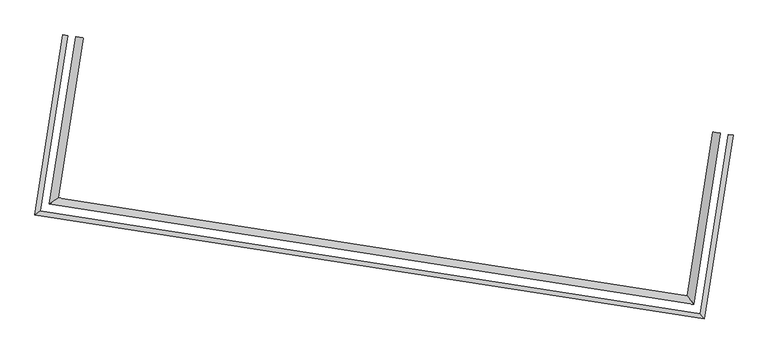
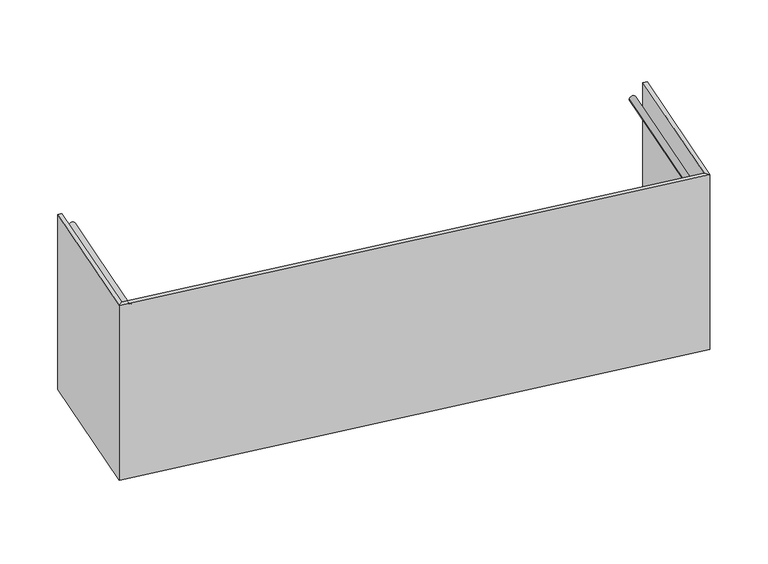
"""IFC4 building model written with IfcOpenShell, lengths in millimetres: railing geometry, Panel de vidrio - balcón."""

from ifc_helpers import new_model, si_unit, frame, origin, place, context, project, spatial, circle_curve, ellipse_curve, faceted_brep, source, transform, mapped, element, save
from ifc_brep_helpers import plane_surface, cylinder_surface, advanced_brep


def railing_e219cee7(model_context):
    return source(origin(), model_context, "Body", "SolidModel", [
        faceted_brep([(-37353.4144704, -61424.1774371, 4145.385397), (-37353.4144704, -61424.1774371, 2945.385397), (-37378.1162031, -61420.3271901, 2945.385397), (-37378.1162031, -61420.3271901, 4145.385397), (-37524.7191931, -62360.8766891, 4145.385397), (-37503.8677074, -62389.4286687, 4145.385397), (-37524.7191931, -62360.8766891, 2945.385397), (-37503.8677074, -62389.4286687, 2945.385397), (-40988.3758738, -61820.998231, 4145.385397), (-41016.9278535, -61841.8497168, 4145.385397), (-40988.3758738, -61820.998231, 2945.385397), (-41016.9278535, -61841.8497168, 2945.385397), (-40869.554814, -60896.3598705, 4145.385397), (-40844.8530813, -60900.2101175, 4145.385397), (-40844.8530813, -60900.2101175, 2945.385397), (-40869.554814, -60896.3598705, 2945.385397)], [[[0, 1, 2, 3]], [[0, 3, 4, 5]], [[3, 2, 6, 4]], [[2, 1, 7, 6]], [[1, 0, 5, 7]], [[5, 4, 8, 9]], [[4, 6, 10, 8]], [[6, 7, 11, 10]], [[7, 5, 9, 11]], [[12, 13, 14, 15]], [[9, 8, 13, 12]], [[8, 10, 14, 13]], [[10, 11, 15, 14]], [[11, 9, 12, 15]]]),
        advanced_brep(
        [(-37459.0454073, -61407.7127946, 4050.0), (-37419.522635, -61413.8731898, 4050.0), (-37559.6716247, -62313.0162571, 4050.0), (-37593.0340019, -62267.3330898, 4050.0), (-40940.5154416, -61786.0457992, 4050.0), (-40894.8322741, -61752.683422, 4050.0), (-40763.9238771, -60912.8245129, 4050.0), (-40803.4466494, -60906.6641178, 4050.0)],
        [
            (0, 1, circle_curve(frame((-37439.2840211, -61410.7929922, 4050.0), z_axis=(0.15400987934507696, 0.9880693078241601, 0.0), x_axis=(0.9880693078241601, -0.15400987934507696, 0.0)), 20.0)),
            (1, 0, circle_curve(frame((-37439.2840211, -61410.7929922, 4050.0), z_axis=(0.15400987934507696, 0.9880693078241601, 0.0), x_axis=(0.9880693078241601, -0.15400987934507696, 0.0)), 20.0)),
            (1, 2),
            (2, 3, ellipse_curve(frame((-37576.3528133, -62290.1746734, 4050.0), z_axis=(0.8075719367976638, 0.5897690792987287, 0.0), x_axis=(-0.5897690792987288, 0.8075719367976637, 0.0)), 28.2842712, 20.0)),
            (3, 0),
            (3, 2, ellipse_curve(frame((-37576.3528133, -62290.1746734, 4050.0), z_axis=(0.8075719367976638, 0.5897690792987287, 0.0), x_axis=(-0.5897690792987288, 0.8075719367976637, 0.0)), 28.2842712, 20.0)),
            (2, 4),
            (4, 5, ellipse_curve(frame((-40917.6738579, -61769.3646106, 4050.0), z_axis=(0.5897690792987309, -0.8075719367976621, 0.0), x_axis=(0.8075719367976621, 0.5897690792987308, 0.0)), 28.2842713, 20.0)),
            (5, 3),
            (5, 4, ellipse_curve(frame((-40917.6738579, -61769.3646106, 4050.0), z_axis=(0.5897690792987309, -0.8075719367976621, 0.0), x_axis=(0.8075719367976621, 0.5897690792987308, 0.0)), 28.2842713, 20.0)),
            (6, 7, circle_curve(frame((-40783.6852633, -60909.7443153, 4050.0), z_axis=(0.15400987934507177, 0.9880693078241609, 0.0), x_axis=(-0.9880693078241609, 0.15400987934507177, 0.0)), 20.0)),
            (7, 6, circle_curve(frame((-40783.6852633, -60909.7443153, 4050.0), z_axis=(0.15400987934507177, 0.9880693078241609, 0.0), x_axis=(-0.9880693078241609, 0.15400987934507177, 0.0)), 20.0)),
            (4, 7),
            (6, 5),
        ],
        [
            plane_surface(frame((-37439.2840211, -61410.7929922, 4050.0), z_axis=(0.15400987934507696, 0.9880693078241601, 0.0), x_axis=(0.9880693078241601, -0.15400987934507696, 0.0))),
            cylinder_surface(frame((-37439.2840211, -61410.7929922, 4050.0), z_axis=(0.15400987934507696, 0.9880693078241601, 0.0), x_axis=(0.9880693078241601, -0.15400987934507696, 0.0)), 20.0),
            cylinder_surface(frame((-37576.3528133, -62290.1746734, 4050.0), z_axis=(0.9880693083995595, -0.15400987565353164, 0.0), x_axis=(-0.15400987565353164, -0.9880693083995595, 0.0)), 20.0),
            plane_surface(frame((-40783.6852633, -60909.7443153, 4050.0), z_axis=(0.15400987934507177, 0.9880693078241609, 0.0), x_axis=(0.9880693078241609, -0.15400987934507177, 0.0))),
            cylinder_surface(frame((-40917.6738579, -61769.3646106, 4050.0), z_axis=(-0.15400987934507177, -0.9880693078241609, 0.0), x_axis=(-0.9880693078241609, 0.15400987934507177, 0.0)), 20.0),
        ],
        [
            (0, [[1, 2]]),
            (1, [[-2, 3, 4, 5]]),
            (1, [[-1, -5, 6, -3]]),
            (2, [[-4, 7, 8, 9]]),
            (2, [[-6, -9, 10, -7]]),
            (3, [[11, 12]]),
            (4, [[-8, 13, -11, 14]]),
            (4, [[-10, -14, -12, -13]]),
        ],
    ),
    ])


if __name__ == "__main__":
    model = new_model("IFC4")
    model_context = context("Model", 3, world=origin())
    ifc_project = project(units=[si_unit("LENGTHUNIT", "METRE", prefix="MILLI")], contexts=[model_context])
    site = spatial("IfcSite", under=ifc_project)
    building = spatial("IfcBuilding", under=site)
    placement = place(None, origin())
    railing_shape = railing_e219cee7(model_context)
    element("IfcRailing", 1, ObjectType="Panel de vidrio - balcón", at=placement, inside=building, context=model_context, shape_type="MappedRepresentation", body=[
        mapped(railing_shape, transform((0.0, 0.0, 0.0), x_axis=(1.0, 0.0, 0.0), y_axis=(0.0, 1.0, 0.0), z_axis=(0.0, 0.0, 1.0))),
    ])
    save(model, "model.ifc")
